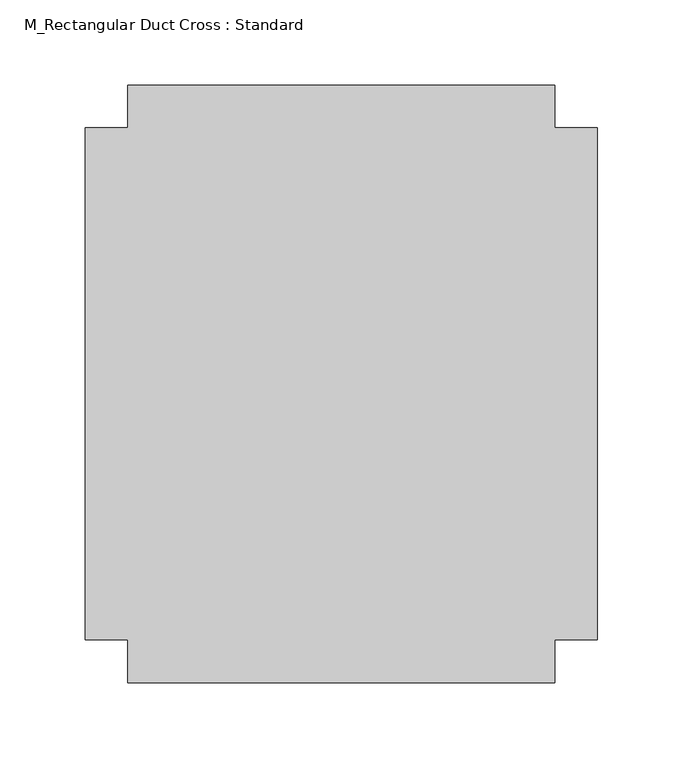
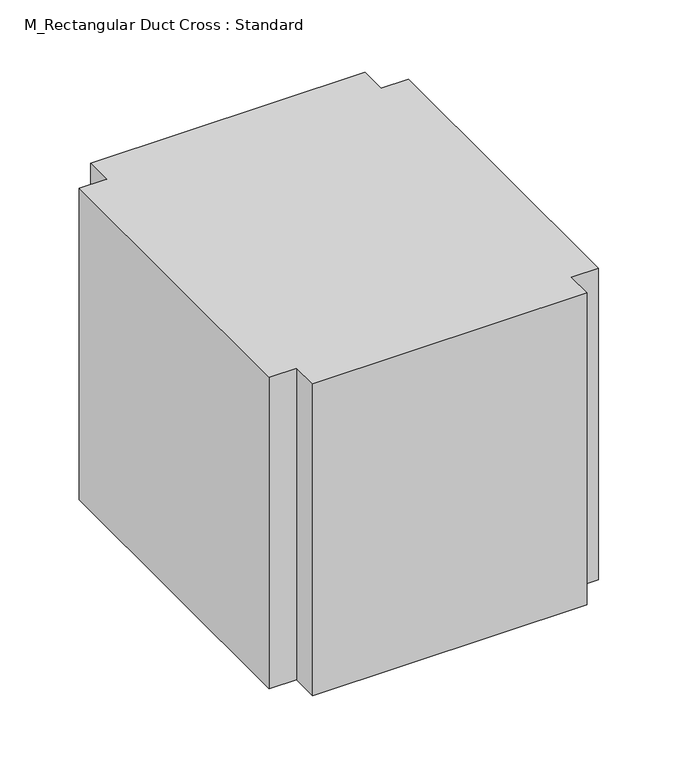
"""IFC4 building model written with IfcOpenShell, lengths in millimetres: duct fitting geometry, M_Rectangular Duct Cross : Standard."""

from ifc_helpers import new_model, si_unit, frame, origin, place, context, project, spatial, polyline, outline, extrude, source, transform, mapped, element, save


def m_rectangular_duct_cross_standard_fb9310e7(model_context):
    return source(origin(), model_context, "Body", "SweptSolid", [
        extrude(outline(polyline([(-125.0, 175.0), (125.0, 175.0), (125.0, 150.0), (150.0, 150.0), (150.0, -150.0), (125.0, -150.0), (125.0, -175.0), (-125.0, -175.0), (-125.0, -150.0), (-150.0, -150.0), (-150.0, 150.0), (-125.0, 150.0), (-125.0, 175.0)])), frame((0.0, 0.0, -150.0), z_axis=(0.0, 0.0, 1.0), x_axis=(1.0, 0.0, 0.0)), (0.0, 0.0, 1.0), 300.0),
        extrude(outline(polyline([(-125.0, 175.0), (125.0, 175.0), (125.0, 150.0), (150.0, 150.0), (150.0, -150.0), (125.0, -150.0), (125.0, -175.0), (-125.0, -175.0), (-125.0, -150.0), (-150.0, -150.0), (-150.0, 150.0), (-125.0, 150.0), (-125.0, 175.0)])), frame((0.0, 0.0, -150.0), z_axis=(0.0, 0.0, 1.0), x_axis=(1.0, 0.0, 0.0)), (0.0, 0.0, 1.0), 300.0),
        extrude(outline(polyline([(125.0, -175.0), (-125.0, -175.0), (-125.0, -150.0), (-150.0, -150.0), (-150.0, 150.0), (-125.0, 150.0), (-125.0, 175.0), (125.0, 175.0), (125.0, 150.0), (150.0, 150.0), (150.0, -150.0), (125.0, -150.0), (125.0, -175.0)])), frame((0.0, 0.0, -150.0), z_axis=(0.0, 0.0, 1.0), x_axis=(1.0, 0.0, 0.0)), (0.0, 0.0, 1.0), 300.0),
    ])


if __name__ == "__main__":
    model = new_model("IFC4")
    model_context = context("Model", 3, world=origin())
    ifc_project = project(units=[si_unit("LENGTHUNIT", "METRE", prefix="MILLI")], contexts=[model_context])
    site = spatial("IfcSite", under=ifc_project)
    building = spatial("IfcBuilding", under=site)
    placement = place(None, origin())
    m_rectangular_duct_cross_standard_shape = m_rectangular_duct_cross_standard_fb9310e7(model_context)
    element("IfcDuctFitting", 1, ObjectType="M_Rectangular Duct Cross : Standard", at=placement, inside=building, context=model_context, shape_type="MappedRepresentation", body=[
        mapped(m_rectangular_duct_cross_standard_shape, transform((0.0, 0.0, 0.0), x_axis=(1.0, 0.0, 0.0), y_axis=(0.0, 1.0, 0.0), z_axis=(0.0, 0.0, 1.0))),
    ])
    save(model, "model.ifc")
